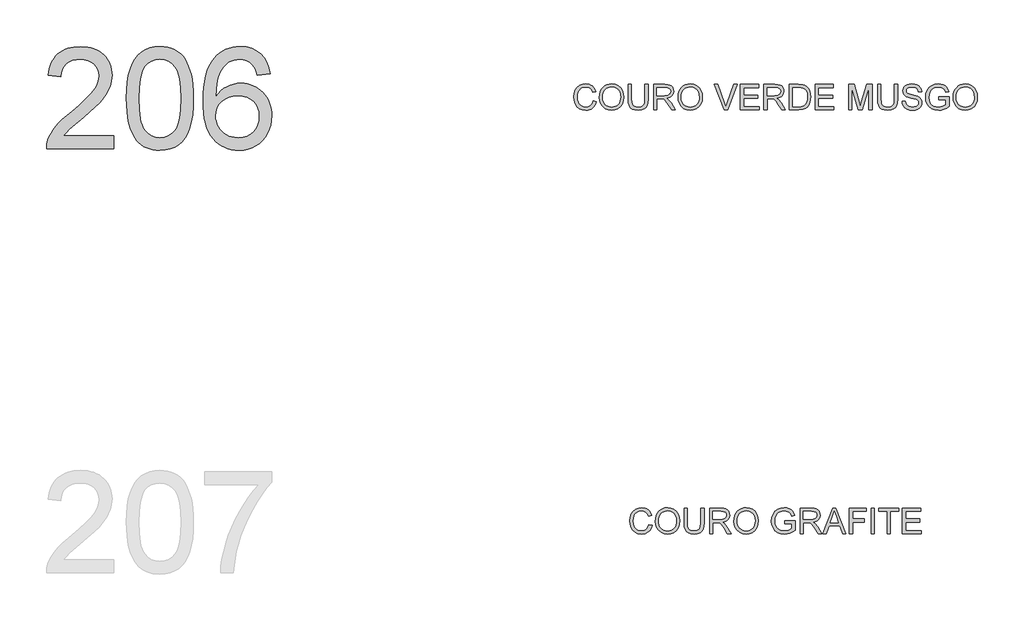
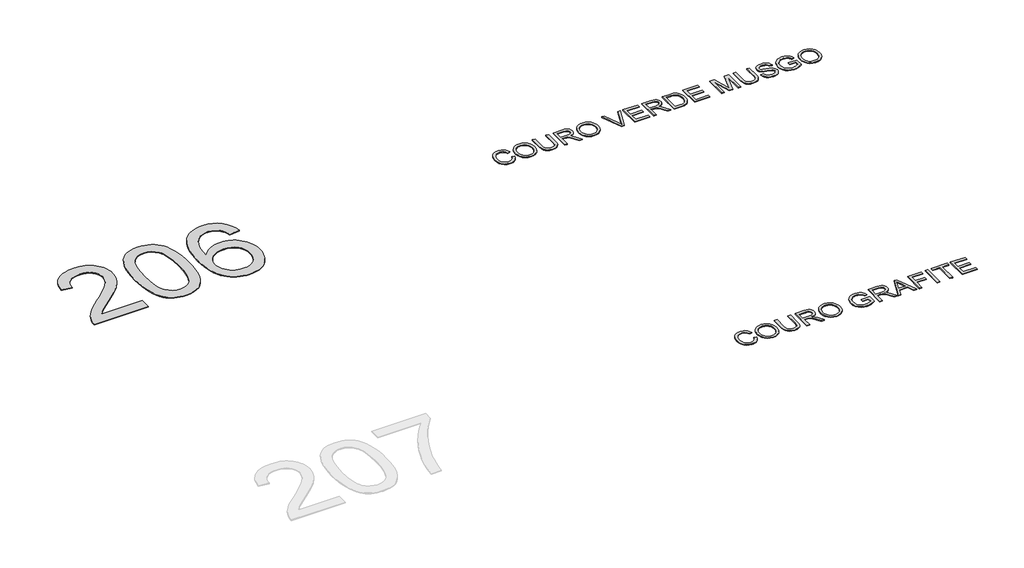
# One storey, part 2 of 39: 3 proxies.
"""IFC4 building model written with IfcOpenShell, lengths in millimetres."""

from ifc_helpers import new_model, si_unit, origin, origin_with_axes, place, context, project, spatial, polyline, outline, extrude, element, save

model = new_model("IFC4")

# Units and contexts
model_context = context("Model", 3, world=origin())
ifc_project = project(units=[si_unit("LENGTHUNIT", "METRE", prefix="MILLI")], contexts=[model_context])

# Site, building, storey
site = spatial("IfcSite", under=ifc_project)
building = spatial("IfcBuilding", under=site)
storey = spatial("IfcBuildingStorey", under=building, Name="Marelli - Linha PROFIT - Planta Baixa", Elevation=0.0)

# Proxies
placement = place(None, origin())
element("IfcBuildingElementProxy", 1, Name="1200mm Arial", ObjectType="1200mm Arial", at=placement, inside=storey, context=model_context, shape_type="SweptSolid", body=[
    extrude(outline(polyline([(-24408.8734949, -159838.133975), (-24408.8734949, -159988.8184403), (-25199.9669374, -159988.8184403), (-25196.6559994, -159935.7698566), (-25183.7801296, -159884.9285648), (-25167.3541985, -159844.029284), (-25146.6240481, -159803.7370085), (-25121.5896783, -159764.0517383), (-25092.2510892, -159724.9734733), (-25056.8424471, -159684.9755034), (-25013.5979186, -159642.5311182), (-24903.601202, -159550.303102), (-24814.169089, -159473.3605827), (-24740.9973602, -159405.8726307), (-24684.0860155, -159347.839246), (-24643.4350551, -159299.2604285), (-24614.9793827, -159255.7032003), (-24594.6539025, -159212.7345832), (-24582.4586144, -159170.3545774), (-24578.3935183, -159128.5631827), (-24582.2286881, -159089.2457945), (-24593.7341975, -159053.1105855), (-24612.9100465, -159020.1575558), (-24639.7562351, -158990.3867054), (-24672.7828412, -158965.7294146), (-24710.4999428, -158948.1170641), (-24752.9075398, -158937.5496538), (-24800.0056322, -158934.0271837), (-24849.6237163, -158937.4668803), (-24893.999482, -158947.7859703), (-24933.1329292, -158964.9844536), (-24967.024058, -158989.0623302), (-24994.4404637, -159019.2102597), (-25014.1497416, -159054.6189017), (-25026.1518917, -159095.2882563), (-25030.446914, -159141.2183234), (-25181.1313792, -159122.3827652), (-25168.1727359, -159044.5941173), (-25157.7133909, -159009.3832119), (-25144.6006971, -158976.6279187), (-25128.8346543, -158946.3282379), (-25110.4152627, -158918.4841694), (-25089.3425221, -158893.0957132), (-25065.6164327, -158870.1628693), (-25039.4945118, -158849.8143965), (-25011.2342768, -158832.1790533), (-24980.8357277, -158817.2568399), (-24948.2988645, -158805.0477562), (-24876.8101957, -158788.7689779), (-24796.7682706, -158783.3427185), (-24716.0089757, -158789.3759832), (-24678.9609595, -158796.9175641), (-24644.1340308, -158807.4757774), (-24611.5281898, -158821.050623), (-24581.1434362, -158837.642101), (-24552.9797702, -158857.2502113), (-24527.0371918, -158879.874954), (-24503.7571593, -158904.7345798), (-24483.5811311, -158931.0473395), (-24466.5091073, -158958.8132331), (-24452.5410878, -158988.0322606), (-24441.6770726, -159018.7044219), (-24433.9170618, -159050.8297172), (-24429.2610552, -159084.4081463), (-24427.7090531, -159119.4397093), (-24429.3829162, -159155.6301005), (-24434.4045054, -159191.5077921), (-24442.7738208, -159227.072784), (-24454.4908623, -159262.3250762), (-24470.098256, -159297.880871), (-24490.1386277, -159334.3563708), (-24543.5183052, -159410.0664855), (-24580.3524899, -159452.0510182), (-24628.6094106, -159500.4550917), (-24759.3914599, -159616.5218611), (-24932.7374561, -159761.4673672), (-24970.334996, -159799.6903065), (-25000.7220488, -159838.133975), (-24408.8734949, -159838.133975)])), origin_with_axes(), (0.0, 0.0, 1.0), 10.0),
    extrude(outline(polyline([(-24258.1890297, -159395.792664), (-24255.4207177, -159294.4319773), (-24247.1157816, -159202.8385576), (-24233.2742216, -159121.0124048), (-24213.8960375, -159048.953519), (-24189.0640028, -158986.073289), (-24158.860891, -158931.7831035), (-24123.2867021, -158886.0829627), (-24082.341436, -158848.9728664), (-24035.8871371, -158820.2596767), (-23983.7858495, -158799.7502555), (-23926.0375733, -158787.4446027), (-23862.6423085, -158783.3427185), (-23815.0015901, -158785.7707396), (-23769.7888929, -158793.0548031), (-23727.0042169, -158805.194909), (-23686.647562, -158822.1910572), (-23649.6938156, -158843.7581391), (-23617.1178649, -158869.6110463), (-23588.91971, -158899.7497788), (-23565.0993508, -158934.1743365), (-23544.4611709, -158972.7467637), (-23525.8095537, -159015.3291046), (-23494.4660077, -159112.5235278), (-23482.4914488, -159169.6831928), (-23473.9381924, -159235.9479371), (-23468.8062386, -159311.3177609), (-23467.0955873, -159395.792664), (-23469.8363081, -159496.5095573), (-23478.0584707, -159587.6431245), (-23491.7620751, -159669.1933658), (-23510.9471211, -159741.1602811), (-23535.5860177, -159804.0681023), (-23565.6511738, -159858.4410612), (-23601.1425893, -159904.2791578), (-23642.0602642, -159941.5823921), (-23688.5697454, -159970.4887199), (-23740.8365799, -159991.1360968), (-23798.8607676, -160003.524523), (-23862.6423085, -160007.6539984), (-23905.3166199, -160005.8605737), (-23945.6364866, -160000.4802995), (-23983.6019085, -159991.5131759), (-24019.2128856, -159978.9592028), (-24052.469418, -159962.8183803), (-24083.3715056, -159943.0907083), (-24111.9191484, -159919.7761868), (-24138.1123465, -159892.8748159), (-24166.2553191, -159850.2786794), (-24190.6458954, -159802.0999336), (-24211.2840753, -159748.3385785), (-24228.1698589, -159688.9946142), (-24241.3032461, -159624.0680406), (-24250.684237, -159553.5588577), (-24256.3128315, -159477.4670655), (-24258.1890297, -159395.792664)]), holes=[polyline([(-24107.5045645, -159395.4983584), (-24103.0899805, -159526.4919399), (-24089.8462287, -159632.5247279), (-24079.9134148, -159676.1808245), (-24067.773309, -159713.5967226), (-24053.4259112, -159744.7724225), (-24036.8712214, -159769.7079239), (-23999.4944107, -159807.884878), (-23957.9973216, -159835.1541309), (-23912.3799542, -159851.5156826), (-23862.6423085, -159856.9695332), (-23812.9046627, -159851.4972885), (-23767.2872953, -159835.0805545), (-23725.7902063, -159807.7193311), (-23688.4133956, -159769.4136183), (-23671.8587058, -159744.418336), (-23657.511308, -159713.2104465), (-23645.3712021, -159675.7899498), (-23635.4383883, -159632.1568459), (-23622.1946364, -159526.2528166), (-23617.7800525, -159395.4983584), (-23622.0474836, -159267.9720648), (-23634.8497771, -159163.8062779), (-23644.4514972, -159120.4835744), (-23656.1869328, -159083.0009976), (-23670.056084, -159051.3585475), (-23686.0589508, -159025.5562241), (-23722.8103621, -158985.5122689), (-23764.7856978, -158956.9094438), (-23811.9849578, -158939.7477487), (-23864.4081421, -158934.0271837), (-23913.8882704, -158939.067167), (-23958.7330856, -158954.187117), (-23998.9425877, -158979.3870337), (-24034.5167766, -159014.666917), (-24051.6232894, -159043.2145599), (-24066.4489338, -159077.2068562), (-24078.9937099, -159116.6438061), (-24089.2576175, -159161.5254095), (-24102.9428277, -159267.6225769), (-24107.5045645, -159395.4983584)])]), origin_with_axes(), (0.0, 0.0, 1.0), 10.0),
    extrude(outline(polyline([(-22562.9887959, -159103.5472071), (-22713.6732612, -159122.3827652), (-22724.7465092, -159082.0812927), (-22737.9534728, -159047.7027202), (-22753.294152, -159019.2470479), (-22770.7685468, -158996.7142757), (-22803.1605565, -158969.2886729), (-22839.1210215, -158949.6989567), (-22878.6499419, -158937.9451269), (-22921.7473176, -158934.0271837), (-22957.2847184, -158936.3080521), (-22991.7920495, -158943.1506572), (-23025.2693111, -158954.554999), (-23057.716503, -158970.5210776), (-23087.3218066, -158996.6315022), (-23114.3335421, -159028.1681863), (-23138.7517095, -159065.1311297), (-23160.5763089, -159107.5203326), (-23178.6485119, -159158.1316981), (-23191.8094903, -159219.7611293), (-23200.059244, -159292.4086263), (-23203.3977731, -159376.0741891), (-23174.6753864, -159338.2099347), (-23142.9547613, -159305.5512106), (-23108.235898, -159278.0980167), (-23070.5187965, -159255.8503531), (-23030.8151321, -159238.6610669), (-22990.1365805, -159226.3830053), (-22948.4831416, -159219.0161683), (-22905.8548154, -159216.560556), (-22868.9562513, -159218.2390176), (-22833.4556388, -159223.2744024), (-22799.3529778, -159231.6667104), (-22766.6482685, -159243.4159416), (-22735.3415107, -159258.5220961), (-22705.4327045, -159276.9851737), (-22676.9218498, -159298.8051745), (-22649.8089468, -159323.9820986), (-22625.04589, -159351.81697), (-22603.5845741, -159381.6108131), (-22585.4249991, -159413.3636278), (-22570.567165, -159447.0754142), (-22559.0110719, -159482.7461721), (-22550.7567196, -159520.3759017), (-22545.8041082, -159559.9646029), (-22544.1532378, -159601.5122757), (-22547.2618406, -159656.4462547), (-22556.5876492, -159709.4120649), (-22572.1306635, -159760.4097065), (-22593.8908835, -159809.4391794), (-22621.0957571, -159854.6702707), (-22652.9727319, -159894.2727675), (-22689.5218082, -159928.2466698), (-22730.7429857, -159956.5919775), (-22775.7533478, -159978.9316116), (-22823.6699777, -159994.8884932), (-22874.4928753, -160004.4626221), (-22928.2220407, -160007.6539984), (-22974.223385, -160005.5386769), (-23018.0496269, -159999.1927125), (-23059.7007666, -159988.6161052), (-23099.1768039, -159973.8088549), (-23136.4777389, -159954.7709616), (-23171.6035717, -159931.5024254), (-23204.5543022, -159904.0032463), (-23235.3299303, -159872.2734242), (-23263.1625025, -159835.6875598), (-23287.2840651, -159793.6202536), (-23307.694618, -159746.0715057), (-23324.3941613, -159693.0413161), (-23337.382695, -159634.5296848), (-23346.6602191, -159570.5366117), (-23352.2267335, -159501.062097), (-23354.0822384, -159426.1061404), (-23352.0220992, -159342.1784618), (-23345.8416817, -159264.1828803), (-23335.5409858, -159192.1193959), (-23321.1200116, -159125.9880088), (-23302.578759, -159065.7887188), (-23279.9172281, -159011.521526), (-23253.1354189, -158963.1864303), (-23222.2333313, -158920.7834319), (-23192.218759, -158888.5707647), (-23159.7117862, -158860.6531198), (-23124.7124129, -158837.0304971), (-23087.2206391, -158817.7028968), (-23047.2364647, -158802.6703188), (-23004.7598898, -158791.9327631), (-22959.7909145, -158785.4902296), (-22912.3295385, -158783.3427185), (-22842.9286002, -158788.6586133), (-22780.1127495, -158804.6062978), (-22723.8819865, -158831.1857719), (-22674.2363113, -158868.3970358), (-22632.518493, -158914.9892904), (-22600.071301, -158969.7117372), (-22576.8947353, -159032.5643761), (-22562.9887959, -159103.5472071)]), holes=[polyline([(-23203.3977731, -159599.157831), (-23201.2180723, -159632.9202011), (-23194.6789698, -159665.9284131), (-23183.7804657, -159698.182467), (-23168.52256, -159729.6823629), (-23149.6502136, -159758.9473756), (-23127.9083877, -159784.4967801), (-23103.2970822, -159806.3305766), (-23075.8162972, -159824.4487648), (-23045.6407766, -159838.676601), (-23012.9452642, -159848.8393411), (-22977.7297602, -159854.9369852), (-22939.9942646, -159856.9695332), (-22887.6170655, -159852.7572843), (-22840.5557613, -159840.1205378), (-22798.8103519, -159819.0592936), (-22762.3808373, -159789.5735517), (-22732.8307161, -159752.8589286), (-22711.7234866, -159710.1110407), (-22699.0591489, -159661.3298882), (-22694.837703, -159606.5154709), (-22699.0039666, -159553.8439662), (-22711.5027574, -159507.0769676), (-22732.3340754, -159466.214475), (-22761.4979205, -159431.2564884), (-22798.0377997, -159403.2514715), (-22840.9972197, -159383.247888), (-22890.3761805, -159371.2457379), (-22946.1746821, -159367.2450212), (-22997.8529054, -159371.2457379), (-23045.4660326, -159383.247888), (-23089.0140638, -159403.2514715), (-23128.4969989, -159431.2564884), (-23161.2660876, -159465.7546225), (-23184.6725796, -159505.2375576), (-23198.7164747, -159549.7052938), (-23203.3977731, -159599.157831)])]), origin_with_axes(), (0.0, 0.0, 1.0), 10.0),
])
element("IfcBuildingElementProxy", 2, Name="300mm Arial", ObjectType="300mm Arial", at=placement, inside=storey, context=model_context, shape_type="SweptSolid", body=[
    extrude(outline(polyline([(-18093.1592138, -164423.4390831), (-18055.4880975, -164433.1511677), (-18062.9423064, -164456.5783531), (-18072.8705218, -164477.0486868), (-18085.2727435, -164494.5621691), (-18100.1489717, -164509.1187997), (-18117.163514, -164520.5622291), (-18135.980678, -164528.7361071), (-18156.6004639, -164533.640434), (-18179.0228715, -164535.2752096), (-18222.7180555, -164530.3271968), (-18257.4185246, -164515.4831583), (-18284.0163929, -164491.2581289), (-18303.403774, -164458.1671434), (-18315.2403772, -164419.2636224), (-18319.1859116, -164377.6009865), (-18314.7253424, -164333.6574821), (-18301.3436349, -164295.7104543), (-18279.7397647, -164264.9647166), (-18250.6127077, -164242.6250824), (-18216.0685884, -164229.0226457), (-18178.2135311, -164224.4885001), (-18136.9095801, -164230.3562179), (-18118.9408439, -164237.6908652), (-18102.7609339, -164247.9593714), (-18088.6365645, -164260.8904235), (-18076.8344503, -164276.2127086), (-18060.196987, -164314.0309777), (-18097.8681033, -164323.0072984), (-18110.9279142, -164295.5357104), (-18128.7701909, -164276.6909552), (-18151.6156628, -164265.7924511), (-18179.6850591, -164262.1596164), (-18212.0402805, -164266.1879242), (-18238.6197547, -164278.2728478), (-18258.7888851, -164297.1451941), (-18271.9130753, -164321.5357704), (-18279.1143653, -164349.1085259), (-18281.5147953, -164377.5274101), (-18278.6729069, -164412.3290468), (-18270.1472417, -164442.421794), (-18255.6159029, -164466.6560205), (-18234.7569937, -164483.8820949), (-18209.7502151, -164494.1735937), (-18182.7752678, -164497.6040933), (-18151.3305543, -164492.931992), (-18125.1281592, -164478.9156879), (-18105.3453049, -164455.702334), (-18093.1592138, -164423.4390831)])), origin_with_axes(), (0.0, 0.0, 1.0), 10.0),
    extrude(outline(polyline([(-18017.8169812, -164383.8549804), (-18015.3061866, -164348.5061192), (-18007.7738027, -164317.213157), (-17995.2198296, -164289.9760937), (-17977.6442673, -164266.7949295), (-17956.100178, -164248.2858666), (-17931.6406238, -164235.0651074), (-17904.2656049, -164227.1326519), (-17873.9751211, -164224.4885001), (-17834.4462007, -164229.454907), (-17799.0007705, -164244.3541278), (-17769.5702108, -164268.1376988), (-17748.0859023, -164299.7571563), (-17734.9525151, -164337.68579), (-17730.5747194, -164380.3968896), (-17735.1824413, -164423.6782064), (-17749.0056073, -164462.140269), (-17771.2808621, -164493.8149087), (-17801.2448506, -164516.733957), (-17836.3867782, -164530.6398965), (-17874.1958503, -164535.2752096), (-17914.3317759, -164530.1524528), (-17949.9795413, -164514.7841825), (-17979.3365245, -164490.5591531), (-18000.6001038, -164458.8661192), (-18013.5127618, -164422.3998164), (-18017.8169812, -164383.8549804)]), holes=[polyline([(-17980.1458649, -164384.2228624), (-17978.2627689, -164409.1974513), (-17972.613481, -164431.3669401), (-17963.1980012, -164450.7313286), (-17950.0163295, -164467.2906169), (-17933.9927693, -164480.5527628), (-17916.0516243, -164490.0257242), (-17896.1928943, -164495.709501), (-17874.4165795, -164497.6040933), (-17852.2677841, -164495.6911069), (-17832.1745294, -164489.9521478), (-17814.1368153, -164480.3872159), (-17798.1546419, -164466.9963113), (-17785.0695392, -164450.0875351), (-17775.7230372, -164429.9689885), (-17770.115136, -164406.6406715), (-17768.2458357, -164380.102584), (-17771.446409, -164346.7540812), (-17781.0481291, -164317.9305269), (-17796.8026755, -164294.358488), (-17818.461728, -164276.7645316), (-17844.5905467, -164265.8108452), (-17873.7543919, -164262.1596164), (-17894.7742494, -164263.9185522), (-17914.2765936, -164269.1953595), (-17932.2614247, -164277.9900385), (-17948.7287425, -164290.302589), (-17962.4737335, -164306.7262208), (-17972.2915843, -164327.8541437), (-17978.1822947, -164353.6863575), (-17980.1458649, -164384.2228624)])]), origin_with_axes(), (0.0, 0.0, 1.0), 10.0),
    extrude(outline(polyline([(-17481.0035738, -164229.1973896), (-17443.3324575, -164229.1973896), (-17443.3324575, -164403.0584205), (-17445.8892374, -164443.7737604), (-17453.559577, -164475.1265034), (-17467.8885807, -164499.3147446), (-17490.4213529, -164518.5365788), (-17521.2130759, -164531.0905519), (-17560.318932, -164535.2752096), (-17598.5694624, -164531.6331779), (-17629.1496533, -164520.7070826), (-17652.0687016, -164502.8740029), (-17667.3358044, -164478.5110178), (-17675.9166519, -164445.8338995), (-17678.7769344, -164403.0584205), (-17678.7769344, -164229.1973896), (-17641.1058181, -164229.1973896), (-17641.1058181, -164401.7340454), (-17639.2480141, -164435.588386), (-17633.6746018, -164459.1604248), (-17623.5762411, -164475.4851883), (-17608.1435914, -164487.597703), (-17588.0204462, -164495.1024957), (-17563.8505991, -164497.6040933), (-17525.5356893, -164492.6560805), (-17511.1928901, -164486.4710644), (-17500.0598612, -164477.812042), (-17491.7227355, -164465.6351479), (-17485.7676457, -164448.8965171), (-17481.0035738, -164401.7340454), (-17481.0035738, -164229.1973896)])), origin_with_axes(), (0.0, 0.0, 1.0), 10.0),
    extrude(outline(polyline([(-17377.408004, -164530.5663201), (-17377.408004, -164229.1973896), (-17247.5456597, -164229.1973896), (-17212.6428554, -164231.2299376), (-17187.2498007, -164237.3275817), (-17168.690154, -164248.5847708), (-17154.2875739, -164266.0959537), (-17145.0445388, -164287.8101885), (-17141.9635271, -164311.6765329), (-17147.0678898, -164341.3646099), (-17162.3809778, -164365.9759154), (-17173.980757, -164376.0052983), (-17188.3626437, -164384.0205273), (-17225.47274, -164394.0085235), (-17204.0620079, -164410.1217548), (-17173.5278023, -164448.8965171), (-17123.2751217, -164530.5663201), (-17167.0530791, -164530.5663201), (-17206.2692998, -164468.0999573), (-17234.5962135, -164426.750021), (-17254.4986294, -164407.2154871), (-17272.4144826, -164400.0417882), (-17294.2666731, -164398.717413), (-17339.7368877, -164398.717413), (-17339.7368877, -164530.5663201), (-17377.408004, -164530.5663201)]), holes=[polyline([(-17339.7368877, -164361.0462967), (-17255.4183344, -164361.0462967), (-17231.2025021, -164359.7127245), (-17212.4129291, -164355.7120078), (-17198.2678664, -164348.7774322), (-17187.9855647, -164338.6422832), (-17181.7223737, -164326.3826157), (-17179.6346434, -164313.0744845), (-17183.616966, -164294.6987789), (-17195.5639338, -164279.8915286), (-17216.1193403, -164270.1242616), (-17245.9269789, -164266.8685059), (-17339.7368877, -164266.8685059), (-17339.7368877, -164361.0462967)])]), origin_with_axes(), (0.0, 0.0, 1.0), 10.0),
    extrude(outline(polyline([(-17090.1657422, -164383.8549804), (-17087.6549475, -164348.5061192), (-17080.1225637, -164317.213157), (-17067.5685906, -164289.9760937), (-17049.9930283, -164266.7949295), (-17028.4489389, -164248.2858666), (-17003.9893848, -164235.0651074), (-16976.6143658, -164227.1326519), (-16946.323882, -164224.4885001), (-16906.7949617, -164229.454907), (-16871.3495314, -164244.3541278), (-16841.9189718, -164268.1376988), (-16820.4346633, -164299.7571563), (-16807.3012761, -164337.68579), (-16802.9234803, -164380.3968896), (-16807.5312023, -164423.6782064), (-16821.3543683, -164462.140269), (-16843.6296231, -164493.8149087), (-16873.5936116, -164516.733957), (-16908.7355392, -164530.6398965), (-16946.5446112, -164535.2752096), (-16986.6805369, -164530.1524528), (-17022.3283022, -164514.7841825), (-17051.6852855, -164490.5591531), (-17072.9488648, -164458.8661192), (-17085.8615228, -164422.3998164), (-17090.1657422, -164383.8549804)]), holes=[polyline([(-17052.4946258, -164384.2228624), (-17050.6115299, -164409.1974513), (-17044.962242, -164431.3669401), (-17035.5467622, -164450.7313286), (-17022.3650904, -164467.2906169), (-17006.3415303, -164480.5527628), (-16988.4003852, -164490.0257242), (-16968.5416553, -164495.709501), (-16946.7653404, -164497.6040933), (-16924.6165451, -164495.6911069), (-16904.5232903, -164489.9521478), (-16886.4855763, -164480.3872159), (-16870.5034028, -164466.9963113), (-16857.4183001, -164450.0875351), (-16848.0717982, -164429.9689885), (-16842.463897, -164406.6406715), (-16840.5945966, -164380.102584), (-16843.79517, -164346.7540812), (-16853.3968901, -164317.9305269), (-16869.1514365, -164294.358488), (-16890.810489, -164276.7645316), (-16916.9393077, -164265.8108452), (-16946.1031528, -164262.1596164), (-16967.1230103, -164263.9185522), (-16986.6253546, -164269.1953595), (-17004.6101856, -164277.9900385), (-17021.0775035, -164290.302589), (-17034.8224945, -164306.7262208), (-17044.6403452, -164327.8541437), (-17050.5310557, -164353.6863575), (-17052.4946258, -164384.2228624)])]), origin_with_axes(), (0.0, 0.0, 1.0), 10.0),
    extrude(outline(polyline([(-16492.1367708, -164412.8440816), (-16492.1367708, -164375.1729653), (-16369.7056428, -164375.1729653), (-16369.7056428, -164487.8184322), (-16399.4580992, -164508.5117945), (-16430.1486546, -164523.355833), (-16461.7037327, -164532.2953654), (-16494.0497572, -164535.2752096), (-16536.3102014, -164530.5387289), (-16574.5055495, -164516.3292869), (-16606.2353716, -164493.1435241), (-16629.0992376, -164461.4780814), (-16642.9224036, -164423.4942654), (-16647.5301256, -164381.3533828), (-16642.9407977, -164338.9089976), (-16629.172814, -164299.4260625), (-16606.7963916, -164266.3074859), (-16576.3817477, -164242.9561762), (-16539.3360308, -164229.1054191), (-16497.0663895, -164224.4885001), (-16466.0355432, -164227.1648416), (-16438.1316939, -164235.1938661), (-16414.6332315, -164247.9961596), (-16396.8185458, -164264.9923077), (-16383.6391734, -164287.0008481), (-16374.0466503, -164314.8403181), (-16408.7747107, -164324.6259792), (-16416.5278237, -164304.7695485), (-16425.9547999, -164289.7875542), (-16438.4259995, -164278.493577), (-16455.3117831, -164269.7011973), (-16475.4441253, -164264.0450116), (-16497.6550007, -164262.1596164), (-16523.6550607, -164264.1921644), (-16545.8843303, -164270.2898085), (-16564.2600359, -164279.6891935), (-16578.6994043, -164291.6269642), (-16598.0867854, -164320.6528536), (-16606.9159533, -164349.0901318), (-16609.8590092, -164379.8082784), (-16606.318145, -164415.8331228), (-16595.6955524, -164445.4752146), (-16578.3131282, -164468.5230216), (-16554.492769, -164484.7650117), (-16526.6165108, -164494.3943229), (-16497.0663895, -164497.6040933), (-16470.974359, -164495.1852692), (-16445.526122, -164487.9287968), (-16423.4256111, -164477.9316036), (-16407.3767591, -164467.2906169), (-16407.3767591, -164412.8440816), (-16492.1367708, -164412.8440816)])), origin_with_axes(), (0.0, 0.0, 1.0), 10.0),
    extrude(outline(polyline([(-16308.4900788, -164530.5663201), (-16308.4900788, -164229.1973896), (-16178.6277345, -164229.1973896), (-16143.7249302, -164231.2299376), (-16118.3318755, -164237.3275817), (-16099.7722288, -164248.5847708), (-16085.3696487, -164266.0959537), (-16076.1266136, -164287.8101885), (-16073.0456019, -164311.6765329), (-16078.1499646, -164341.3646099), (-16093.4630526, -164365.9759154), (-16105.0628318, -164376.0052983), (-16119.4447185, -164384.0205273), (-16156.5548148, -164394.0085235), (-16135.1440827, -164410.1217548), (-16104.6098771, -164448.8965171), (-16054.3571965, -164530.5663201), (-16098.135154, -164530.5663201), (-16137.3513746, -164468.0999573), (-16165.6782883, -164426.750021), (-16185.5807042, -164407.2154871), (-16203.4965574, -164400.0417882), (-16225.3487479, -164398.717413), (-16270.8189625, -164398.717413), (-16270.8189625, -164530.5663201), (-16308.4900788, -164530.5663201)]), holes=[polyline([(-16270.8189625, -164361.0462967), (-16186.5004092, -164361.0462967), (-16162.2845769, -164359.7127245), (-16143.495004, -164355.7120078), (-16129.3499412, -164348.7774322), (-16119.0676395, -164338.6422832), (-16112.8044485, -164326.3826157), (-16110.7167182, -164313.0744845), (-16114.6990408, -164294.6987789), (-16126.6460086, -164279.8915286), (-16147.2014151, -164270.1242616), (-16177.0090537, -164266.8685059), (-16270.8189625, -164266.8685059), (-16270.8189625, -164361.0462967)])]), origin_with_axes(), (0.0, 0.0, 1.0), 10.0),
    extrude(outline(polyline([(-16042.2170907, -164530.5663201), (-15921.9196783, -164229.1973896), (-15889.8403683, -164229.1973896), (-15769.5429559, -164530.5663201), (-15809.3477877, -164530.5663201), (-15843.8551189, -164436.3885293), (-15967.9785041, -164436.3885293), (-16002.4122588, -164530.5663201), (-16042.2170907, -164530.5663201)]), holes=[polyline([(-15954.146141, -164398.717413), (-15857.6139055, -164398.717413), (-15884.7635968, -164324.6259792), (-15905.8800233, -164266.8685059), (-15924.642005, -164318.1512561), (-15954.146141, -164398.717413)])]), origin_with_axes(), (0.0, 0.0, 1.0), 10.0),
    extrude(outline(polyline([(-15729.2966656, -164530.5663201), (-15729.2966656, -164229.1973896), (-15526.8144154, -164229.1973896), (-15526.8144154, -164266.8685059), (-15691.6255493, -164266.8685059), (-15691.6255493, -164356.3374072), (-15550.3588631, -164356.3374072), (-15550.3588631, -164394.0085235), (-15691.6255493, -164394.0085235), (-15691.6255493, -164530.5663201), (-15729.2966656, -164530.5663201)])), origin_with_axes(), (0.0, 0.0, 1.0), 10.0),
    extrude(outline(polyline([(-15470.307741, -164530.5663201), (-15470.307741, -164229.1973896), (-15432.6366247, -164229.1973896), (-15432.6366247, -164530.5663201), (-15470.307741, -164530.5663201)])), origin_with_axes(), (0.0, 0.0, 1.0), 10.0),
    extrude(outline(polyline([(-15281.9521595, -164530.5663201), (-15281.9521595, -164266.8685059), (-15380.8388398, -164266.8685059), (-15380.8388398, -164229.1973896), (-15145.3943628, -164229.1973896), (-15145.3943628, -164266.8685059), (-15244.2810432, -164266.8685059), (-15244.2810432, -164530.5663201), (-15281.9521595, -164530.5663201)])), origin_with_axes(), (0.0, 0.0, 1.0), 10.0),
    extrude(outline(polyline([(-15103.014357, -164530.5663201), (-15103.014357, -164229.1973896), (-14886.4054382, -164229.1973896), (-14886.4054382, -164266.8685059), (-15065.3432407, -164266.8685059), (-15065.3432407, -164356.3374072), (-14895.8232173, -164356.3374072), (-14895.8232173, -164394.0085235), (-15065.3432407, -164394.0085235), (-15065.3432407, -164492.8952038), (-14881.6965487, -164492.8952038), (-14881.6965487, -164530.5663201), (-15103.014357, -164530.5663201)])), origin_with_axes(), (0.0, 0.0, 1.0), 10.0),
])
element("IfcBuildingElementProxy", 3, Name="300mm Arial", ObjectType="300mm Arial", at=placement, inside=storey, context=model_context, shape_type="SweptSolid", body=[
    extrude(outline(polyline([(-18752.4037492, -159423.4390831), (-18714.7326329, -159433.1511677), (-18722.1868418, -159456.5783531), (-18732.1150571, -159477.0486868), (-18744.5172789, -159494.5621691), (-18759.3935071, -159509.1187997), (-18776.4080493, -159520.5622291), (-18795.2252134, -159528.7361071), (-18815.8449992, -159533.640434), (-18838.2674068, -159535.2752096), (-18881.9625908, -159530.3271968), (-18916.66306, -159515.4831583), (-18943.2609283, -159491.2581289), (-18962.6483094, -159458.1671434), (-18974.4849126, -159419.2636224), (-18978.430447, -159377.6009865), (-18973.9698778, -159333.6574821), (-18960.5881702, -159295.7104543), (-18938.9843001, -159264.9647166), (-18909.8572431, -159242.6250824), (-18875.3131237, -159229.0226457), (-18837.4580664, -159224.4885001), (-18796.1541154, -159230.3562179), (-18778.1853792, -159237.6908652), (-18762.0054692, -159247.9593714), (-18747.8810999, -159260.8904235), (-18736.0789856, -159276.2127086), (-18719.4415224, -159314.0309777), (-18757.1126387, -159323.0072984), (-18770.1724495, -159295.5357104), (-18788.0147263, -159276.6909552), (-18810.8601982, -159265.7924511), (-18838.9295944, -159262.1596164), (-18871.2848159, -159266.1879242), (-18897.8642901, -159278.2728478), (-18918.0334204, -159297.1451941), (-18931.1576106, -159321.5357704), (-18938.3589007, -159349.1085259), (-18940.7593307, -159377.5274101), (-18937.9174423, -159412.3290468), (-18929.391777, -159442.421794), (-18914.8604382, -159466.6560205), (-18894.0015291, -159483.8820949), (-18868.9947505, -159494.1735937), (-18842.0198032, -159497.6040933), (-18810.5750896, -159492.931992), (-18784.3726945, -159478.9156879), (-18764.5898402, -159455.702334), (-18752.4037492, -159423.4390831)])), origin_with_axes(), (0.0, 0.0, 1.0), 10.0),
    extrude(outline(polyline([(-18677.0615165, -159383.8549804), (-18674.5507219, -159348.5061192), (-18667.0183381, -159317.213157), (-18654.464365, -159289.9760937), (-18636.8888027, -159266.7949295), (-18615.3447133, -159248.2858666), (-18590.8851592, -159235.0651074), (-18563.5101402, -159227.1326519), (-18533.2196564, -159224.4885001), (-18493.6907361, -159229.454907), (-18458.2453058, -159244.3541278), (-18428.8147462, -159268.1376988), (-18407.3304377, -159299.7571563), (-18394.1970505, -159337.68579), (-18389.8192547, -159380.3968896), (-18394.4269767, -159423.6782064), (-18408.2501427, -159462.140269), (-18430.5253975, -159493.8149087), (-18460.489386, -159516.733957), (-18495.6313136, -159530.6398965), (-18533.4403856, -159535.2752096), (-18573.5763113, -159530.1524528), (-18609.2240766, -159514.7841825), (-18638.5810599, -159490.5591531), (-18659.8446392, -159458.8661192), (-18672.7572972, -159422.3998164), (-18677.0615165, -159383.8549804)]), holes=[polyline([(-18639.3904002, -159384.2228624), (-18637.5073043, -159409.1974513), (-18631.8580164, -159431.3669401), (-18622.4425366, -159450.7313286), (-18609.2608648, -159467.2906169), (-18593.2373047, -159480.5527628), (-18575.2961596, -159490.0257242), (-18555.4374297, -159495.709501), (-18533.6611148, -159497.6040933), (-18511.5123195, -159495.6911069), (-18491.4190647, -159489.9521478), (-18473.3813507, -159480.3872159), (-18457.3991772, -159466.9963113), (-18444.3140745, -159450.0875351), (-18434.9675726, -159429.9689885), (-18429.3596714, -159406.6406715), (-18427.490371, -159380.102584), (-18430.6909444, -159346.7540812), (-18440.2926645, -159317.9305269), (-18456.0472109, -159294.358488), (-18477.7062634, -159276.7645316), (-18503.8350821, -159265.8108452), (-18532.9989272, -159262.1596164), (-18554.0187847, -159263.9185522), (-18573.521129, -159269.1953595), (-18591.50596, -159277.9900385), (-18607.9732779, -159290.302589), (-18621.7182689, -159306.7262208), (-18631.5361196, -159327.8541437), (-18637.4268301, -159353.6863575), (-18639.3904002, -159384.2228624)])]), origin_with_axes(), (0.0, 0.0, 1.0), 10.0),
    extrude(outline(polyline([(-18140.2481092, -159229.1973896), (-18102.5769929, -159229.1973896), (-18102.5769929, -159403.0584205), (-18105.1337727, -159443.7737604), (-18112.8041123, -159475.1265034), (-18127.1331161, -159499.3147446), (-18149.6658883, -159518.5365788), (-18180.4576113, -159531.0905519), (-18219.5634673, -159535.2752096), (-18257.8139978, -159531.6331779), (-18288.3941886, -159520.7070826), (-18311.3132369, -159502.8740029), (-18326.5803397, -159478.5110178), (-18335.1611873, -159445.8338995), (-18338.0214698, -159403.0584205), (-18338.0214698, -159229.1973896), (-18300.3503535, -159229.1973896), (-18300.3503535, -159401.7340454), (-18298.4925494, -159435.588386), (-18292.9191372, -159459.1604248), (-18282.8207764, -159475.4851883), (-18267.3881267, -159487.597703), (-18247.2649816, -159495.1024957), (-18223.0951345, -159497.6040933), (-18184.7802247, -159492.6560805), (-18170.4374254, -159486.4710644), (-18159.3043965, -159477.812042), (-18150.9672708, -159465.6351479), (-18145.012181, -159448.8965171), (-18140.2481092, -159401.7340454), (-18140.2481092, -159229.1973896)])), origin_with_axes(), (0.0, 0.0, 1.0), 10.0),
    extrude(outline(polyline([(-18036.6525393, -159530.5663201), (-18036.6525393, -159229.1973896), (-17906.790195, -159229.1973896), (-17871.8873908, -159231.2299376), (-17846.494336, -159237.3275817), (-17827.9346894, -159248.5847708), (-17813.5321093, -159266.0959537), (-17804.2890741, -159287.8101885), (-17801.2080624, -159311.6765329), (-17806.3124251, -159341.3646099), (-17821.6255132, -159365.9759154), (-17833.2252923, -159376.0052983), (-17847.6071791, -159384.0205273), (-17884.7172753, -159394.0085235), (-17863.3065432, -159410.1217548), (-17832.7723376, -159448.8965171), (-17782.5196571, -159530.5663201), (-17826.2976145, -159530.5663201), (-17865.5138352, -159468.0999573), (-17893.8407488, -159426.750021), (-17913.7431648, -159407.2154871), (-17931.6590179, -159400.0417882), (-17953.5112084, -159398.717413), (-17998.981423, -159398.717413), (-17998.981423, -159530.5663201), (-18036.6525393, -159530.5663201)]), holes=[polyline([(-17998.981423, -159361.0462967), (-17914.6628697, -159361.0462967), (-17890.4470374, -159359.7127245), (-17871.6574645, -159355.7120078), (-17857.5124018, -159348.7774322), (-17847.2301, -159338.6422832), (-17840.9669091, -159326.3826157), (-17838.8791787, -159313.0744845), (-17842.8615013, -159294.6987789), (-17854.8084691, -159279.8915286), (-17875.3638756, -159270.1242616), (-17905.1715143, -159266.8685059), (-17998.981423, -159266.8685059), (-17998.981423, -159361.0462967)])]), origin_with_axes(), (0.0, 0.0, 1.0), 10.0),
    extrude(outline(polyline([(-17749.4102775, -159383.8549804), (-17746.8994829, -159348.5061192), (-17739.367099, -159317.213157), (-17726.813126, -159289.9760937), (-17709.2375636, -159266.7949295), (-17687.6934743, -159248.2858666), (-17663.2339201, -159235.0651074), (-17635.8589012, -159227.1326519), (-17605.5684174, -159224.4885001), (-17566.039497, -159229.454907), (-17530.5940668, -159244.3541278), (-17501.1635072, -159268.1376988), (-17479.6791986, -159299.7571563), (-17466.5458114, -159337.68579), (-17462.1680157, -159380.3968896), (-17466.7757377, -159423.6782064), (-17480.5989036, -159462.140269), (-17502.8741584, -159493.8149087), (-17532.8381469, -159516.733957), (-17567.9800745, -159530.6398965), (-17605.7891466, -159535.2752096), (-17645.9250723, -159530.1524528), (-17681.5728376, -159514.7841825), (-17710.9298208, -159490.5591531), (-17732.1934001, -159458.8661192), (-17745.1060582, -159422.3998164), (-17749.4102775, -159383.8549804)]), holes=[polyline([(-17711.7391612, -159384.2228624), (-17709.8560652, -159409.1974513), (-17704.2067774, -159431.3669401), (-17694.7912975, -159450.7313286), (-17681.6096258, -159467.2906169), (-17665.5860656, -159480.5527628), (-17647.6449206, -159490.0257242), (-17627.7861906, -159495.709501), (-17606.0098758, -159497.6040933), (-17583.8610804, -159495.6911069), (-17563.7678257, -159489.9521478), (-17545.7301116, -159480.3872159), (-17529.7479382, -159466.9963113), (-17516.6628355, -159450.0875351), (-17507.3163335, -159429.9689885), (-17501.7084324, -159406.6406715), (-17499.839132, -159380.102584), (-17503.0397053, -159346.7540812), (-17512.6414254, -159317.9305269), (-17528.3959719, -159294.358488), (-17550.0550243, -159276.7645316), (-17576.183843, -159265.8108452), (-17605.3476882, -159262.1596164), (-17626.3675457, -159263.9185522), (-17645.86989, -159269.1953595), (-17663.854721, -159277.9900385), (-17680.3220388, -159290.302589), (-17694.0670299, -159306.7262208), (-17703.8848806, -159327.8541437), (-17709.7755911, -159353.6863575), (-17711.7391612, -159384.2228624)])]), origin_with_axes(), (0.0, 0.0, 1.0), 10.0),
    extrude(outline(polyline([(-17203.6205495, -159530.5663201), (-17323.5500799, -159229.1973896), (-17283.2302132, -159229.1973896), (-17202.9583619, -159446.3213432), (-17186.6979777, -159495.2496485), (-17170.6583227, -159446.3213432), (-17090.1657422, -159229.1973896), (-17049.8458755, -159229.1973896), (-17164.6986344, -159530.5663201), (-17203.6205495, -159530.5663201)])), origin_with_axes(), (0.0, 0.0, 1.0), 10.0),
    extrude(outline(polyline([(-17014.8235095, -159530.5663201), (-17014.8235095, -159229.1973896), (-16798.2145908, -159229.1973896), (-16798.2145908, -159266.8685059), (-16977.1523932, -159266.8685059), (-16977.1523932, -159356.3374072), (-16807.6323699, -159356.3374072), (-16807.6323699, -159394.0085235), (-16977.1523932, -159394.0085235), (-16977.1523932, -159492.8952038), (-16793.5057012, -159492.8952038), (-16793.5057012, -159530.5663201), (-17014.8235095, -159530.5663201)])), origin_with_axes(), (0.0, 0.0, 1.0), 10.0),
    extrude(outline(polyline([(-16736.9990268, -159530.5663201), (-16736.9990268, -159229.1973896), (-16607.1366825, -159229.1973896), (-16572.2338782, -159231.2299376), (-16546.8408235, -159237.3275817), (-16528.2811768, -159248.5847708), (-16513.8785967, -159266.0959537), (-16504.6355616, -159287.8101885), (-16501.5545499, -159311.6765329), (-16506.6589126, -159341.3646099), (-16521.9720006, -159365.9759154), (-16533.5717798, -159376.0052983), (-16547.9536665, -159384.0205273), (-16585.0637628, -159394.0085235), (-16563.6530307, -159410.1217548), (-16533.1188251, -159448.8965171), (-16482.8661445, -159530.5663201), (-16526.6441019, -159530.5663201), (-16565.8603226, -159468.0999573), (-16594.1872363, -159426.750021), (-16614.0896522, -159407.2154871), (-16632.0055054, -159400.0417882), (-16653.8576959, -159398.717413), (-16699.3279105, -159398.717413), (-16699.3279105, -159530.5663201), (-16736.9990268, -159530.5663201)]), holes=[polyline([(-16699.3279105, -159361.0462967), (-16615.0093572, -159361.0462967), (-16590.7935248, -159359.7127245), (-16572.0039519, -159355.7120078), (-16557.8588892, -159348.7774322), (-16547.5765875, -159338.6422832), (-16541.3133965, -159326.3826157), (-16539.2256662, -159313.0744845), (-16543.2079888, -159294.6987789), (-16555.1549566, -159279.8915286), (-16575.710363, -159270.1242616), (-16605.5180017, -159266.8685059), (-16699.3279105, -159266.8685059), (-16699.3279105, -159361.0462967)])]), origin_with_axes(), (0.0, 0.0, 1.0), 10.0),
    extrude(outline(polyline([(-16435.6300963, -159530.5663201), (-16435.6300963, -159229.1973896), (-16331.6666445, -159229.1973896), (-16277.8822968, -159233.5383972), (-16253.8596025, -159241.9077126), (-16233.5893046, -159255.0962821), (-16212.7487896, -159278.0521186), (-16197.904751, -159306.5997614), (-16189.0204009, -159340.1873876), (-16186.0589508, -159378.2631741), (-16188.0639077, -159410.6091985), (-16194.0787783, -159439.0740679), (-16203.23904, -159463.3082943), (-16214.68017, -159482.9623899), (-16227.8503455, -159498.477813), (-16242.1977433, -159510.2960221), (-16258.6696596, -159519.0608107), (-16278.2133906, -159525.4159721), (-16326.6634494, -159530.5663201), (-16435.6300963, -159530.5663201)]), holes=[polyline([(-16397.95898, -159492.8952038), (-16331.2987625, -159492.8952038), (-16303.726007, -159491.5340404), (-16282.8119155, -159487.4505502), (-16267.0297779, -159480.8838566), (-16254.8528839, -159472.0730828), (-16241.7654819, -159455.7667134), (-16231.9338356, -159434.6594839), (-16225.7810092, -159408.6594239), (-16223.7300671, -159377.6745629), (-16227.7491779, -159336.6189322), (-16239.8065103, -159306.3054558), (-16257.6211959, -159285.4833349), (-16278.9123664, -159272.9017706), (-16300.5806159, -159268.3768221), (-16332.3288321, -159266.8685059), (-16397.95898, -159266.8685059), (-16397.95898, -159492.8952038)])]), origin_with_axes(), (0.0, 0.0, 1.0), 10.0),
    extrude(outline(polyline([(-16134.2611659, -159530.5663201), (-16134.2611659, -159229.1973896), (-15917.6522471, -159229.1973896), (-15917.6522471, -159266.8685059), (-16096.5900496, -159266.8685059), (-16096.5900496, -159356.3374072), (-15927.0700262, -159356.3374072), (-15927.0700262, -159394.0085235), (-16096.5900496, -159394.0085235), (-16096.5900496, -159492.8952038), (-15912.9433576, -159492.8952038), (-15912.9433576, -159530.5663201), (-16134.2611659, -159530.5663201)])), origin_with_axes(), (0.0, 0.0, 1.0), 10.0),
    extrude(outline(polyline([(-15738.7144447, -159530.5663201), (-15738.7144447, -159229.1973896), (-15673.8936371, -159229.1973896), (-15612.2366147, -159441.6124536), (-15599.8022033, -159485.9790223), (-15586.3377223, -159437.9336337), (-15525.7107695, -159229.1973896), (-15460.8899619, -159229.1973896), (-15460.8899619, -159530.5663201), (-15498.5610782, -159530.5663201), (-15498.5610782, -159266.8685059), (-15574.2711928, -159530.5663201), (-15625.3332138, -159530.5663201), (-15701.0433284, -159266.8685059), (-15701.0433284, -159530.5663201), (-15738.7144447, -159530.5663201)])), origin_with_axes(), (0.0, 0.0, 1.0), 10.0),
    extrude(outline(polyline([(-15197.1921478, -159229.1973896), (-15159.5210315, -159229.1973896), (-15159.5210315, -159403.0584205), (-15162.0778113, -159443.7737604), (-15169.7481509, -159475.1265034), (-15184.0771546, -159499.3147446), (-15206.6099268, -159518.5365788), (-15237.4016498, -159531.0905519), (-15276.5075059, -159535.2752096), (-15314.7580364, -159531.6331779), (-15345.3382272, -159520.7070826), (-15368.2572755, -159502.8740029), (-15383.5243783, -159478.5110178), (-15392.1052259, -159445.8338995), (-15394.9655084, -159403.0584205), (-15394.9655084, -159229.1973896), (-15357.2943921, -159229.1973896), (-15357.2943921, -159401.7340454), (-15355.436588, -159435.588386), (-15349.8631758, -159459.1604248), (-15339.764815, -159475.4851883), (-15324.3321653, -159487.597703), (-15304.2090202, -159495.1024957), (-15280.0391731, -159497.6040933), (-15241.7242633, -159492.6560805), (-15227.381464, -159486.4710644), (-15216.2484351, -159477.812042), (-15207.9113094, -159465.6351479), (-15201.9562196, -159448.8965171), (-15197.1921478, -159401.7340454), (-15197.1921478, -159229.1973896)])), origin_with_axes(), (0.0, 0.0, 1.0), 10.0),
    extrude(outline(polyline([(-15107.7232465, -159426.9707502), (-15070.0521302, -159426.9707502), (-15065.7295168, -159447.8756446), (-15057.9120244, -159464.6786547), (-15045.7167363, -159478.0143771), (-15028.2607356, -159488.517408), (-15006.9235799, -159495.332422), (-14983.0848266, -159497.6040933), (-14962.0971588, -159495.884245), (-14943.7214531, -159490.7247), (-14928.8314293, -159482.5577197), (-14918.3008072, -159471.8155654), (-14912.0376163, -159459.4823215), (-14909.9498859, -159446.5420724), (-14911.5133844, -159433.932917), (-14916.2038799, -159423.0344129), (-14925.7320235, -159413.7361954), (-14941.8084667, -159405.9279001), (-14996.6596722, -159391.5437141), (-15032.6661225, -159382.0247675), (-15055.7047324, -159372.9656733), (-15074.4575171, -159360.2921386), (-15087.7472542, -159344.9330653), (-15095.6659142, -159327.2195472), (-15098.3054675, -159307.4826782), (-15095.0405148, -159285.4189555), (-15085.2456566, -159264.845155), (-15069.1784105, -159247.4075484), (-15047.0962937, -159234.7524077), (-15020.590396, -159227.054477), (-14991.2518069, -159224.4885001), (-14959.4668025, -159227.1740386), (-14931.6549237, -159235.2306543), (-14908.8094518, -159248.4928003), (-14891.9236682, -159266.7949295), (-14881.2366962, -159288.9966079), (-14876.9876592, -159313.9574013), (-14914.6587755, -159313.9574013), (-14921.574957, -159291.4798114), (-14935.9959312, -159275.2562154), (-14958.5287034, -159265.4337661), (-14989.7802789, -159262.1596164), (-15021.7676184, -159265.3969779), (-15043.7117794, -159275.1090626), (-15056.4037082, -159289.4012781), (-15060.6343512, -159306.3790322), (-15057.6361129, -159320.8551887), (-15048.6413981, -159332.4986539), (-15027.3778188, -159342.9097143), (-14987.1315285, -159353.541504), (-14945.5976513, -159363.6398648), (-14920.471311, -159372.4506385), (-14898.9961995, -159386.1174547), (-14884.0142053, -159402.9848441), (-14875.2126285, -159422.868866), (-14872.2787696, -159445.5855792), (-14875.6540869, -159468.8081301), (-14885.7800389, -159490.6511236), (-14902.2427581, -159509.4498935), (-14924.6283775, -159523.539774), (-14951.5481425, -159532.3413507), (-14981.6132986, -159535.2752096), (-15018.5210598, -159532.1114244), (-15048.8989155, -159522.620069), (-15073.0963537, -159506.764355), (-15091.4628624, -159484.5074943), (-15103.2534803, -159457.3945912), (-15107.7232465, -159426.9707502)])), origin_with_axes(), (0.0, 0.0, 1.0), 10.0),
    extrude(outline(polyline([(-14674.505409, -159412.8440816), (-14674.505409, -159375.1729653), (-14552.074281, -159375.1729653), (-14552.074281, -159487.8184322), (-14581.8267374, -159508.5117945), (-14612.5172928, -159523.355833), (-14644.072371, -159532.2953654), (-14676.4183954, -159535.2752096), (-14718.6788396, -159530.5387289), (-14756.8741877, -159516.3292869), (-14788.6040098, -159493.1435241), (-14811.4678758, -159461.4780814), (-14825.2910418, -159423.4942654), (-14829.8987638, -159381.3533828), (-14825.3094359, -159338.9089976), (-14811.5414522, -159299.4260625), (-14789.1650299, -159266.3074859), (-14758.7503859, -159242.9561762), (-14721.704669, -159229.1054191), (-14679.4350278, -159224.4885001), (-14648.4041815, -159227.1648416), (-14620.5003321, -159235.1938661), (-14597.0018697, -159247.9961596), (-14579.1871841, -159264.9923077), (-14566.0078116, -159287.0008481), (-14556.4152886, -159314.8403181), (-14591.1433489, -159324.6259792), (-14598.896462, -159304.7695485), (-14608.3234381, -159289.7875542), (-14620.7946377, -159278.493577), (-14637.6804213, -159269.7011973), (-14657.8127635, -159264.0450116), (-14680.023639, -159262.1596164), (-14706.023699, -159264.1921644), (-14728.2529685, -159270.2898085), (-14746.6286742, -159279.6891935), (-14761.0680425, -159291.6269642), (-14780.4554236, -159320.6528536), (-14789.2845915, -159349.0901318), (-14792.2276475, -159379.8082784), (-14788.6867833, -159415.8331228), (-14778.0641907, -159445.4752146), (-14760.6817664, -159468.5230216), (-14736.8614072, -159484.7650117), (-14708.985149, -159494.3943229), (-14679.4350278, -159497.6040933), (-14653.3429973, -159495.1852692), (-14627.8947602, -159487.9287968), (-14605.7942494, -159477.9316036), (-14589.7453973, -159467.2906169), (-14589.7453973, -159412.8440816), (-14674.505409, -159412.8440816)])), origin_with_axes(), (0.0, 0.0, 1.0), 10.0),
    extrude(outline(polyline([(-14504.9853856, -159383.8549804), (-14502.474591, -159348.5061192), (-14494.9422072, -159317.213157), (-14482.3882341, -159289.9760937), (-14464.8126718, -159266.7949295), (-14443.2685824, -159248.2858666), (-14418.8090283, -159235.0651074), (-14391.4340093, -159227.1326519), (-14361.1435255, -159224.4885001), (-14321.6146051, -159229.454907), (-14286.1691749, -159244.3541278), (-14256.7386153, -159268.1376988), (-14235.2543068, -159299.7571563), (-14222.1209196, -159337.68579), (-14217.7431238, -159380.3968896), (-14222.3508458, -159423.6782064), (-14236.1740118, -159462.140269), (-14258.4492666, -159493.8149087), (-14288.4132551, -159516.733957), (-14323.5551827, -159530.6398965), (-14361.3642547, -159535.2752096), (-14401.5001804, -159530.1524528), (-14437.1479457, -159514.7841825), (-14466.5049289, -159490.5591531), (-14487.7685083, -159458.8661192), (-14500.6811663, -159422.3998164), (-14504.9853856, -159383.8549804)]), holes=[polyline([(-14467.3142693, -159384.2228624), (-14465.4311734, -159409.1974513), (-14459.7818855, -159431.3669401), (-14450.3664057, -159450.7313286), (-14437.1847339, -159467.2906169), (-14421.1611738, -159480.5527628), (-14403.2200287, -159490.0257242), (-14383.3612988, -159495.709501), (-14361.5849839, -159497.6040933), (-14339.4361886, -159495.6911069), (-14319.3429338, -159489.9521478), (-14301.3052198, -159480.3872159), (-14285.3230463, -159466.9963113), (-14272.2379436, -159450.0875351), (-14262.8914417, -159429.9689885), (-14257.2835405, -159406.6406715), (-14255.4142401, -159380.102584), (-14258.6148135, -159346.7540812), (-14268.2165335, -159317.9305269), (-14283.97108, -159294.358488), (-14305.6301325, -159276.7645316), (-14331.7589512, -159265.8108452), (-14360.9227963, -159262.1596164), (-14381.9426538, -159263.9185522), (-14401.4449981, -159269.1953595), (-14419.4298291, -159277.9900385), (-14435.897147, -159290.302589), (-14449.642138, -159306.7262208), (-14459.4599887, -159327.8541437), (-14465.3506992, -159353.6863575), (-14467.3142693, -159384.2228624)])]), origin_with_axes(), (0.0, 0.0, 1.0), 10.0),
])

save(model, "model.ifc")
